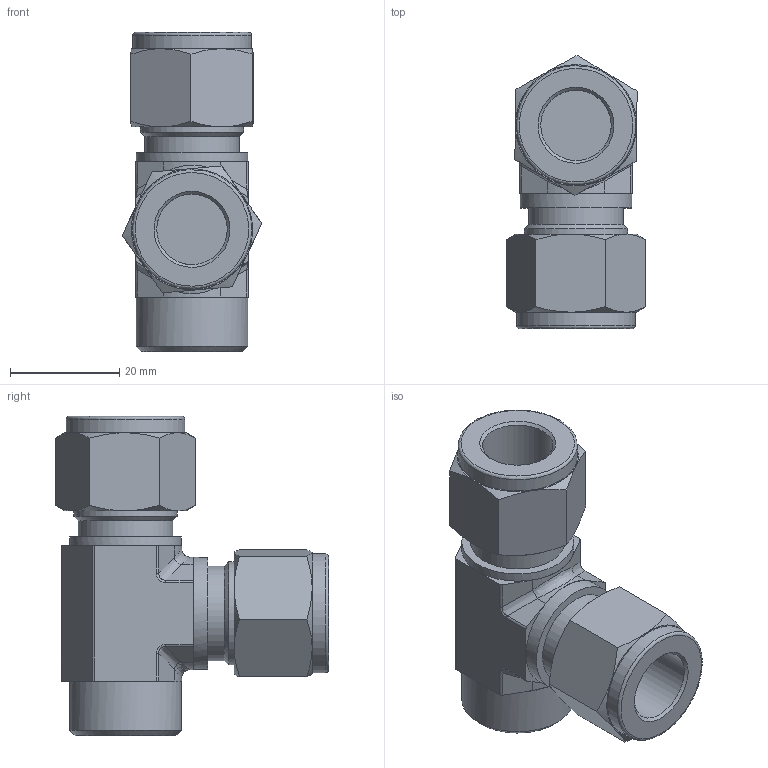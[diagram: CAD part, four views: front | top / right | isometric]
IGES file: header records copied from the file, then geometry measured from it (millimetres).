
Global section: file name: SFRT-8-4N; native system: Autodesk Inventor 2016; preprocessor: unknown; author: DESIGNPC2; date: 20151031.102513; units: millimetre
Bounding box: 25.57 x 50.04 x 58.5 mm (x, y, z)
Volume: 23666.4 mm3; surface area: 9850.9 mm2
Topology: 1 solids, 1 shells, 124 faces, 318 edges, 213 vertices
Faces by surface type: bspline 124
